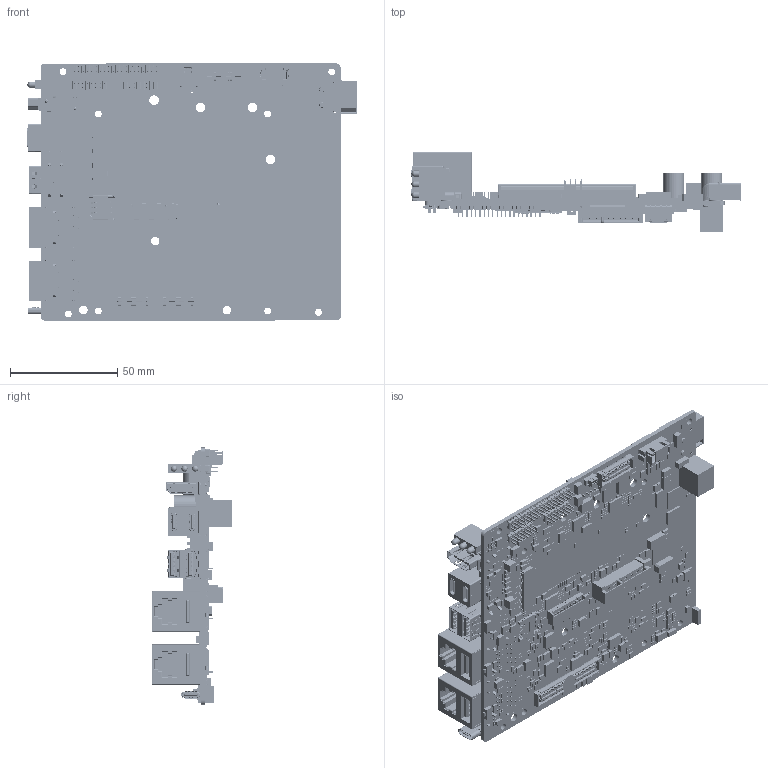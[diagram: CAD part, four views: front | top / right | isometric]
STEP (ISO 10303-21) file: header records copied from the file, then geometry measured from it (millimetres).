
FILE_DESCRIPTION((''),'2;1');
FILE_NAME('0001_ASM','2025-08-13T10:02:22',('Lenovo'),(''),'CREO PARAMETRIC BY PTC INC, 2022073','CREO PARAMETRIC BY PTC INC, 2022073','');
FILE_SCHEMA(('AUTOMOTIVE_DESIGN { 1 0 10303 214 1 1 1 1 }'));
Products named in the file (169): BOARD; R1206; R0402; C0402; ACW4532B-2-510TF; NUP2105L; KLXES15AAA1; BTC-641-BN01; AT24C02D-MAHM-T; SI7149ADP-T1-GE3; AONR21321; 74LVC1G32SE-7; 74AUP1G08SE-7; 74LV1T08GWH; 74LVC1G17GW; TPS3840DL20DBVR; NCA1051N-DSPR; SDCW2012U-2-900TF; SDCW2012H-2-900TF; BDFN10A054U; XAL1580-102MEB; 7443551130; W25X10CLSNIG; NAE12S20-C; LT8390EFE; NAM12S06-D; ASM1806; PXTD010M227E040STU; BDFN2C051U2; BSD3C051L2; BDFN2C051V40; LBZT52C3V3T1G; SMBJ12CA; RB521S30T1G; HDR200M-1X4; NTS4001NT1G; PMV32UP; MMBT3904LT1; FDV301N; R0805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
Assembly tree (1513 placements, depth 6):
  0001_ASM
    Y-C28-V1-0_0811A1_ASM
      Y-C28-V1-0_0811A1_1_ASM
        BOARD
        COMPONENTS_ASM
          R1206  x8
          R0402  x607
          C0402  x331
          ACW4532B-2-510TF  x4
          NUP2105L  x4
          KLXES15AAA1  x70
          BTC-641-BN01
          AT24C02D-MAHM-T
          SI7149ADP-T1-GE3
          AONR21321
          74LVC1G32SE-7
          74AUP1G08SE-7
          74LV1T08GWH
          74LVC1G17GW
          TPS3840DL20DBVR
          NCA1051N-DSPR  x4
          SDCW2012U-2-900TF  x11
          SDCW2012H-2-900TF  x4
          BDFN10A054U  x3
          XAL1580-102MEB
          7443551130
          W25X10CLSNIG
          NAE12S20-C  x2
          LT8390EFE
          NAM12S06-D
          ASM1806
          PXTD010M227E040STU  x2
          BDFN2C051U2  x26
          BSD3C051L2  x8
          BDFN2C051V40
          LBZT52C3V3T1G
          SMBJ12CA
          RB521S30T1G
          HDR200M-1X4
          NTS4001NT1G  x8
          PMV32UP  x2
          MMBT3904LT1
          FDV301N
          R0805  x16
          HD3SS3220IRNHR  x2
          SGM2576YN5G  x5
          NCP380HSNAJAAT1G  x2
          EFM8SB10F2G-A-QFN20
          SN74LVC1G07DBVR
          MX25L512EMI-10G
          UPD720201K8-711-BAC-A
          PCR1H181MCL1GS
          PA2512FKF7T0R001E
          WSL36376L000FEA  x2
          NCA9306-DTSHR  x2
          NAE12S03-B  x6
          TP40  x19
          T521D107M025ATE040  x10
          SD05  x4
          C0603  x60
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Bounding box: 153.83 x 37.53 x 120.11 mm (x, y, z)
Volume: 89229.9 mm3; surface area: 113066 mm2
Topology: 1508 solids, 1548 shells, 33380 faces, 88631 edges, 58425 vertices
Faces by surface type: plane 27137, cylinder 5431, extrusion 292, bspline 203, cone 139, torus 134, sphere 44
Entity records: 885202 total; most frequent: CARTESIAN_POINT 157533, ORIENTED_EDGE 130638, DIRECTION 126081, EDGE_CURVE 65544, VECTOR 53457, LINE 53238, VERTEX_POINT 43095, AXIS2_PLACEMENT_3D 36312
